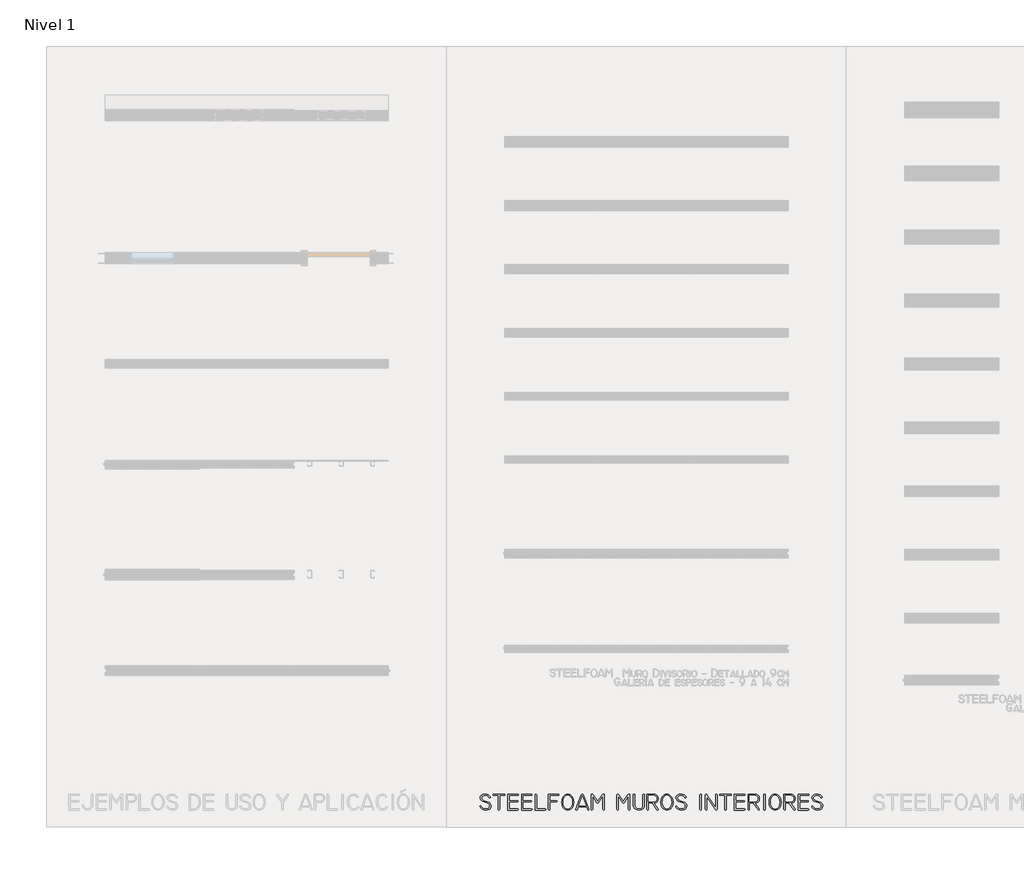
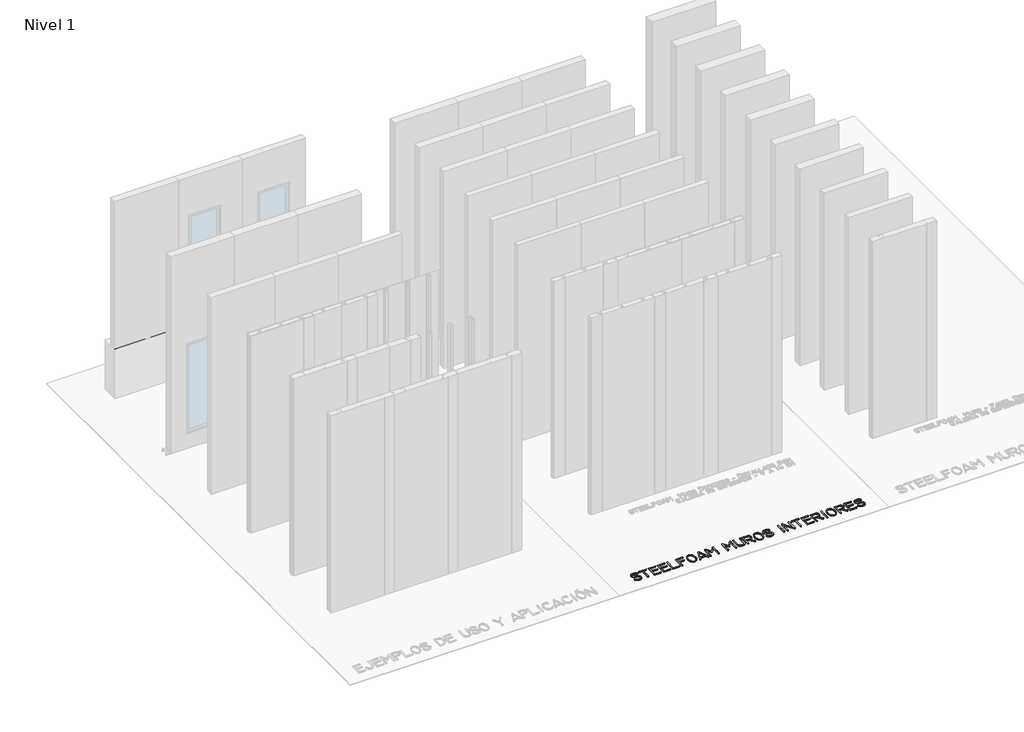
# One storey, part 3 of 6: 2 proxies.
"""IFC4 building model written with IfcOpenShell, lengths in millimetres."""

from ifc_helpers import new_model, si_unit, point, frame, frame_2d, origin, origin_with_axes, place, context, project, spatial, polyline, circle_curve, trimmed, segment, composite_curve, outline, extrude, element, save

model = new_model("IFC4")

# Units and contexts
model_context = context("Model", 3, world=origin())
ifc_project = project(units=[si_unit("LENGTHUNIT", "METRE", prefix="MILLI")], contexts=[model_context])

# Site, building, storey
site = spatial("IfcSite", under=ifc_project)
building = spatial("IfcBuilding", under=site)
storey = spatial("IfcBuildingStorey", under=building, Name="Nivel 1", Elevation=0.0)

# Proxies
placement = place(None, origin())
element("IfcBuildingElementProxy", 1, Name="Steelfoam - Canal Arrastre 12cm", ObjectType="Steelfoam - Canal Arrastre 12cm", at=placement, inside=storey, context=model_context, shape_type="SweptSolid", body=[
    extrude(outline(composite_curve([segment(polyline([(-650.6879397, 1000.2), (-538.6879397, 1000.2)]), True, "CONTINUOUS"), segment(trimmed(circle_curve(frame_2d((-538.6879397, 1004.2)), 4.0), [point((-538.6879397, 1000.2))], [point((-534.6879397, 1004.2))], True, "CARTESIAN"), True, "CONTINUOUS"), segment(polyline([(-534.6879397, 1004.2), (-534.6879397, 1059.3231849), (-534.4879397, 1060.2), (-534.4879397, 1004.2)]), True, "CONTINUOUS"), segment(trimmed(circle_curve(frame_2d((-538.6879397, 1004.2)), 4.2), [point((-534.4879397, 1004.2))], [point((-538.6879397, 1000.0))], False, "CARTESIAN"), True, "CONTINUOUS"), segment(polyline([(-538.6879397, 1000.0), (-650.6879397, 1000.0)]), True, "CONTINUOUS"), segment(trimmed(circle_curve(frame_2d((-650.6879397, 1004.2)), 4.2), [point((-650.6879397, 1000.0))], [point((-654.8879397, 1004.2))], False, "CARTESIAN"), True, "CONTINUOUS"), segment(polyline([(-654.8879397, 1004.2), (-654.8879397, 1060.2), (-654.6879397, 1059.3126662), (-654.6879397, 1004.2)]), True, "CONTINUOUS"), segment(trimmed(circle_curve(frame_2d((-650.6879397, 1004.2)), 4.0), [point((-654.6879397, 1004.2))], [point((-650.6879397, 1000.2))], True, "CARTESIAN"), True, "CONTINUOUS")], self_intersect=False)), frame((-2440.1407437, 0.0, 0.0), z_axis=(1.0, 0.0, 0.0), x_axis=(0.0, 1.0, 0.0)), (0.0, 0.0, 1.0), 3660.0),
])
element("IfcBuildingElementProxy", 2, Name="20cm", ObjectType="20cm", at=placement, inside=storey, context=model_context, shape_type="SweptSolid", body=[
    extrude(outline(polyline([(2547.4066032, -9530.4874668), (2542.8079945, -9554.8707869), (2529.0121687, -9572.2874441), (2506.0191257, -9582.7374384), (2473.8288654, -9586.2207698), (2453.9249873, -9583.3668825), (2434.7911088, -9574.8052205), (2417.906118, -9561.2935611), (2404.7489029, -9543.5896819), (2403.4777925, -9538.7985734), (2405.7877913, -9533.8852427), (2412.7177875, -9532.2474658), (2419.5622282, -9535.034131), (2430.3850001, -9550.3546782), (2443.9822149, -9561.5074499), (2458.838318, -9568.3091129), (2473.4377545, -9570.5763339), (2497.5857969, -9568.0249464), (2514.8343986, -9560.3707839), (2525.1835597, -9547.6138464), (2528.63328, -9529.7541338), (2526.7877255, -9519.1360841), (2521.2510618, -9509.6730337), (2499.1044072, -9494.2119309), (2439.8999949, -9472.2119429), (2425.3341695, -9463.5280587), (2414.9300085, -9453.2186199), (2408.6875119, -9441.2836264), (2406.6066797, -9427.7230782), (2410.5269554, -9407.6175336), (2422.2877823, -9392.9142082), (2441.8891605, -9383.6131022), (2469.33109, -9379.7142154), (2490.817745, -9380.1542152), (2512.0599557, -9389.4919879), (2532.0066115, -9404.1708688), (2536.9932755, -9412.3628088), (2538.6554968, -9421.1230818), (2536.4432758, -9427.1364119), (2529.8066127, -9429.1408552), (2524.1355047, -9427.5641894), (2520.8110621, -9422.834192), (2513.9421769, -9411.1314206), (2502.2332944, -9402.1297588), (2487.2977469, -9396.6114285), (2470.7488671, -9395.3586514), (2450.899989, -9398.2155942), (2436.7222189, -9404.635313), (2428.2155568, -9414.6178076), (2425.3800028, -9428.163078), (2427.2988907, -9438.3808502), (2433.0555542, -9447.5230674), (2456.0822084, -9462.580837), (2515.139954, -9485.0208248), (2529.256613, -9494.2608198), (2539.3399409, -9504.9185918), (2545.3899376, -9516.9941408), (2547.4066032, -9530.4874668)])), origin_with_axes(), (0.0, 0.0, 1.0), 20.0),
    extrude(outline(polyline([(2715.1931786, -9395.3586514), (2656.9176547, -9395.3586514), (2656.9176547, -9576.8341083), (2654.5709893, -9583.8741044), (2647.5309932, -9586.2207698), (2640.490997, -9583.8741044), (2638.1443316, -9576.8341083), (2638.1443316, -9395.3586514), (2581.2865847, -9395.3586514), (2574.6499217, -9393.011986), (2572.4377007, -9385.9719898), (2574.6743661, -9381.278659), (2581.3843625, -9379.7142154), (2715.2420675, -9379.7142154), (2721.9520638, -9381.278659), (2724.1887293, -9385.9719898), (2721.9398416, -9393.011986), (2715.1931786, -9395.3586514)])), origin_with_axes(), (0.0, 0.0, 1.0), 20.0),
    extrude(outline(polyline([(2891.5841938, -9586.2207698), (2763.2998191, -9586.2207698), (2763.2998191, -9379.7142154), (2891.5841938, -9379.7142154), (2898.2941902, -9381.278659), (2900.5308556, -9385.9719898), (2898.3064124, -9393.011986), (2891.6330827, -9395.3586514), (2782.0731422, -9395.3586514), (2782.0731422, -9464.1941695), (2885.2286417, -9464.1941695), (2891.9019714, -9465.7586131), (2894.1264147, -9470.4519439), (2891.9019714, -9477.49194), (2885.2286417, -9479.8386054), (2782.0731422, -9479.8386054), (2782.0731422, -9570.5763339), (2891.6330827, -9570.5763339), (2898.3064124, -9572.1407775), (2900.5308556, -9576.8341083), (2898.2941902, -9583.8741044), (2891.5841938, -9586.2207698)])), origin_with_axes(), (0.0, 0.0, 1.0), 20.0),
    extrude(outline(polyline([(3069.9307635, -9586.2207698), (2941.6463888, -9586.2207698), (2941.6463888, -9379.7142154), (3069.9307635, -9379.7142154), (3076.6407599, -9381.278659), (3078.8774253, -9385.9719898), (3076.6529821, -9393.011986), (3069.9796524, -9395.3586514), (2960.4197119, -9395.3586514), (2960.4197119, -9464.1941695), (3063.5752114, -9464.1941695), (3070.2485411, -9465.7586131), (3072.4729844, -9470.4519439), (3070.2485411, -9477.49194), (3063.5752114, -9479.8386054), (2960.4197119, -9479.8386054), (2960.4197119, -9570.5763339), (3069.9796524, -9570.5763339), (3076.6529821, -9572.1407775), (3078.8774253, -9576.8341083), (3076.6407599, -9583.8741044), (3069.9307635, -9586.2207698)])), origin_with_axes(), (0.0, 0.0, 1.0), 20.0),
    extrude(outline(polyline([(3245.148446, -9586.2207698), (3116.8640713, -9586.2207698), (3116.8640713, -9385.9719898), (3119.2107367, -9381.278659), (3126.2507329, -9379.7142154), (3133.2907291, -9381.278659), (3135.6373945, -9385.9719898), (3135.6373945, -9570.5763339), (3245.1973349, -9570.5763339), (3251.8706646, -9572.1407775), (3254.0951078, -9576.8341083), (3251.8584424, -9583.8741044), (3245.148446, -9586.2207698)])), origin_with_axes(), (0.0, 0.0, 1.0), 20.0),
    extrude(outline(polyline([(3417.2861302, -9395.3586514), (3307.7261898, -9395.3586514), (3307.7261898, -9464.1941695), (3392.5483659, -9464.1941695), (3399.2216956, -9465.7586131), (3401.4461388, -9470.4519439), (3399.2216956, -9477.49194), (3392.5483659, -9479.8386054), (3307.7261898, -9479.8386054), (3307.7261898, -9576.8341083), (3305.3795244, -9583.8741044), (3298.3395282, -9586.2207698), (3291.2995321, -9583.8741044), (3288.9528667, -9576.8341083), (3288.9528667, -9379.7142154), (3417.2372414, -9379.7142154), (3423.9472377, -9381.278659), (3426.1839032, -9385.9719898), (3423.9594599, -9393.011986), (3417.2861302, -9395.3586514)])), origin_with_axes(), (0.0, 0.0, 1.0), 20.0),
    extrude(outline(polyline([(3617.4860214, -9482.4297151), (3612.5360241, -9520.9296942), (3597.6860322, -9553.3185655), (3585.8213164, -9567.7132799), (3572.2271571, -9577.9952187), (3556.9035543, -9584.164382), (3539.850508, -9586.2207698), (3522.7607951, -9584.1674376), (3507.3271924, -9578.0074409), (3493.5496999, -9567.7407799), (3481.4283176, -9553.3674543), (3466.1383259, -9520.7952498), (3461.041662, -9482.4297151), (3465.8327705, -9444.8952911), (3480.206096, -9412.0786423), (3491.5055343, -9397.9192055), (3504.6260828, -9387.8053221), (3519.5677413, -9381.7369921), (3536.33051, -9379.7142154), (3554.2971669, -9381.7369921), (3570.3082693, -9387.8053221), (3584.3638172, -9397.9192055), (3596.4638106, -9412.0786423), (3612.2304687, -9444.9686244), (3617.4860214, -9482.4297151)]), holes=[polyline([(3598.7126983, -9482.4297151), (3594.728256, -9449.8575106), (3582.7749292, -9422.5408588), (3573.2935454, -9410.648643), (3562.4004958, -9402.1542032), (3550.0957803, -9397.0575393), (3536.3793988, -9395.3586514), (3523.7080168, -9397.0514282), (3512.4360785, -9402.1297588), (3502.5635839, -9410.5936431), (3494.0905329, -9422.4430811), (3483.3838721, -9449.6375107), (3479.8149851, -9482.4297151), (3483.7138719, -9515.930808), (3495.4105322, -9543.1007933), (3504.7880271, -9555.1213423), (3515.3205214, -9563.7074487), (3527.008015, -9568.8591126), (3539.850508, -9570.5763339), (3552.720501, -9568.8591126), (3564.3438281, -9563.7074487), (3574.7204891, -9555.1213423), (3583.8504841, -9543.1007933), (3594.9971447, -9516.0041413), (3598.7126983, -9482.4297151)])]), origin_with_axes(), (0.0, 0.0, 1.0), 20.0),
    extrude(outline(polyline([(3813.1881372, -9575.0252203), (3814.0681367, -9577.4207746), (3811.6725825, -9584.020771), (3804.4859197, -9586.2207698), (3799.0348116, -9583.7274378), (3795.4903691, -9576.2474419), (3781.8503765, -9545.5452364), (3674.1971017, -9545.5452364), (3660.8504423, -9580.5496618), (3657.5015552, -9584.8029928), (3652.1482248, -9586.2207698), (3644.9248954, -9584.020771), (3642.5171189, -9577.4207746), (3643.1037852, -9575.856331), (3714.8237463, -9386.7542116), (3718.832633, -9381.4742145), (3726.8504064, -9379.7142154), (3734.6237355, -9381.5353255), (3738.9748442, -9386.9986559), (3813.1881372, -9575.0252203)]), holes=[polyline([(3775.983713, -9529.9008004), (3726.9481841, -9401.2253148), (3679.9659874, -9529.9008004), (3775.983713, -9529.9008004)])]), origin_with_axes(), (0.0, 0.0, 1.0), 20.0),
    extrude(outline(polyline([(4011.7258071, -9576.8341083), (4009.3791417, -9583.8741044), (4002.3391455, -9586.2207698), (3995.2991493, -9583.8741044), (3992.9524839, -9576.8341083), (3992.9524839, -9403.2786471), (3936.3391814, -9490.1052665), (3926.2191869, -9496.6563741), (3916.6369699, -9490.6919329), (3861.539222, -9403.5719802), (3861.539222, -9576.8341083), (3859.1925567, -9583.8741044), (3852.1525605, -9586.2207698), (3845.1125643, -9583.8741044), (3842.7658989, -9576.8341083), (3842.7658989, -9386.5097673), (3845.2836753, -9381.4131034), (3852.8370046, -9379.7142154), (3861.8692219, -9382.244214), (3868.5303294, -9389.8342099), (3926.3169646, -9474.0208308), (3985.2769326, -9390.2742097), (3992.3658176, -9382.354214), (4001.2147017, -9379.7142154), (4009.0980307, -9381.6331033), (4011.7258071, -9387.3897668), (4011.7258071, -9576.8341083)])), origin_with_axes(), (0.0, 0.0, 1.0), 20.0),
    extrude(outline(polyline([(4343.387849, -9576.8341083), (4341.0411836, -9583.8741044), (4334.0011874, -9586.2207698), (4326.9611912, -9583.8741044), (4324.6145258, -9576.8341083), (4324.6145258, -9403.2786471), (4268.0012233, -9490.1052665), (4257.8812288, -9496.6563741), (4248.2990118, -9490.6919329), (4193.201264, -9403.5719802), (4193.201264, -9576.8341083), (4190.8545986, -9583.8741044), (4183.8146024, -9586.2207698), (4176.7746062, -9583.8741044), (4174.4279408, -9576.8341083), (4174.4279408, -9386.5097673), (4176.9457172, -9381.4131034), (4184.4990465, -9379.7142154), (4193.5312638, -9382.244214), (4200.1923713, -9389.8342099), (4257.9790065, -9474.0208308), (4316.9389745, -9390.2742097), (4324.0278595, -9382.354214), (4332.8767436, -9379.7142154), (4340.7600726, -9381.6331033), (4343.387849, -9387.3897668), (4343.387849, -9576.8341083)])), origin_with_axes(), (0.0, 0.0, 1.0), 20.0),
    extrude(outline(polyline([(4531.1210802, -9516.5052522), (4526.8433048, -9545.1724588), (4514.0099784, -9566.3474473), (4492.6211012, -9580.0302176), (4462.676673, -9586.2207698), (4435.8122432, -9583.4952157), (4412.1255894, -9571.2118891), (4401.217262, -9560.7527281), (4393.4255995, -9548.4907903), (4388.7506021, -9534.4260758), (4387.1922696, -9518.5585844), (4387.1922696, -9385.9719898), (4389.538935, -9381.278659), (4396.5789312, -9379.7142154), (4403.6189273, -9381.278659), (4405.9655927, -9385.9719898), (4405.9655927, -9518.0208069), (4410.5000347, -9541.7074607), (4424.1033606, -9558.8918958), (4441.923351, -9566.8241137), (4461.3566737, -9570.5763339), (4483.6652727, -9565.9166142), (4499.5999863, -9555.2618978), (4509.1608144, -9538.6121846), (4512.3477571, -9515.9674747), (4512.3477571, -9385.9719898), (4514.6944225, -9381.278659), (4521.7344187, -9379.7142154), (4528.7744148, -9381.278659), (4531.1210802, -9385.9719898), (4531.1210802, -9516.5052522)])), origin_with_axes(), (0.0, 0.0, 1.0), 20.0),
    extrude(outline(polyline([(4709.4676499, -9435.6430739), (4704.5543193, -9462.4708371), (4689.8143273, -9481.8430488), (4676.3943346, -9489.7263778), (4663.1210085, -9492.3541542), (4648.9921273, -9492.3541542), (4709.076539, -9573.4607768), (4709.4676499, -9576.4429974), (4707.1698734, -9583.7763267), (4700.2765438, -9586.2207698), (4693.3343254, -9582.602994), (4628.8010271, -9492.3541542), (4581.1832752, -9492.3541542), (4581.1832752, -9576.8341083), (4578.8366099, -9583.8741044), (4571.7966137, -9586.2207698), (4564.7566175, -9583.8741044), (4562.4099521, -9576.8341083), (4562.4099521, -9379.7142154), (4651.0454595, -9379.7142154), (4673.5954472, -9383.3808801), (4691.5743263, -9394.3808741), (4704.994319, -9413.1053084), (4709.4676499, -9435.6430739)]), holes=[polyline([(4690.6943268, -9435.6430739), (4687.6387729, -9418.8741941), (4678.4721112, -9405.8208679), (4665.9443403, -9397.9742055), (4650.7521263, -9395.3586514), (4581.1832752, -9395.3586514), (4581.1832752, -9476.7097182), (4662.2898978, -9476.7097182), (4678.3254447, -9469.0341669), (4687.6021063, -9455.3819521), (4690.6943268, -9435.6430739)])]), origin_with_axes(), (0.0, 0.0, 1.0), 20.0),
    extrude(outline(polyline([(4900.3297684, -9482.4297151), (4895.3797711, -9520.9296942), (4880.5297792, -9553.3185655), (4868.6650634, -9567.7132799), (4855.0709041, -9577.9952187), (4839.7473013, -9584.164382), (4822.6942551, -9586.2207698), (4805.6045421, -9584.1674376), (4790.1709394, -9578.0074409), (4776.3934469, -9567.7407799), (4764.2720646, -9553.3674543), (4748.9820729, -9520.7952498), (4743.885409, -9482.4297151), (4748.6765175, -9444.8952911), (4763.049843, -9412.0786423), (4774.3492813, -9397.9192055), (4787.4698298, -9387.8053221), (4802.4114883, -9381.7369921), (4819.174257, -9379.7142154), (4837.1409139, -9381.7369921), (4853.1520163, -9387.8053221), (4867.2075642, -9397.9192055), (4879.3075576, -9412.0786423), (4895.0742157, -9444.9686244), (4900.3297684, -9482.4297151)]), holes=[polyline([(4881.5564453, -9482.4297151), (4877.572003, -9449.8575106), (4865.6186762, -9422.5408588), (4856.1372924, -9410.648643), (4845.2442428, -9402.1542032), (4832.9395273, -9397.0575393), (4819.2231458, -9395.3586514), (4806.5517638, -9397.0514282), (4795.2798255, -9402.1297588), (4785.4073309, -9410.5936431), (4776.9342799, -9422.4430811), (4766.2276191, -9449.6375107), (4762.6587321, -9482.4297151), (4766.5576189, -9515.930808), (4778.2542792, -9543.1007933), (4787.6317741, -9555.1213423), (4798.1642684, -9563.7074487), (4809.851762, -9568.8591126), (4822.6942551, -9570.5763339), (4835.5642481, -9568.8591126), (4847.1875751, -9563.7074487), (4857.5642361, -9555.1213423), (4866.6942311, -9543.1007933), (4877.8408917, -9516.0041413), (4881.5564453, -9482.4297151)])]), origin_with_axes(), (0.0, 0.0, 1.0), 20.0),
    extrude(outline(polyline([(5078.6763381, -9530.4874668), (5074.0777295, -9554.8707869), (5060.2819037, -9572.2874441), (5037.2888606, -9582.7374384), (5005.0986003, -9586.2207698), (4985.1947223, -9583.3668825), (4966.0608438, -9574.8052205), (4949.175853, -9561.2935611), (4936.0186379, -9543.5896819), (4934.7475275, -9538.7985734), (4937.0575262, -9533.8852427), (4943.9875224, -9532.2474658), (4950.8319632, -9535.034131), (4961.6547351, -9550.3546782), (4975.2519499, -9561.5074499), (4990.1080529, -9568.3091129), (5004.7074894, -9570.5763339), (5028.8555319, -9568.0249464), (5046.1041336, -9560.3707839), (5056.4532946, -9547.6138464), (5059.903015, -9529.7541338), (5058.0574604, -9519.1360841), (5052.5207968, -9509.6730337), (5030.3741421, -9494.2119309), (4971.1697299, -9472.2119429), (4956.6039045, -9463.5280587), (4946.1997435, -9453.2186199), (4939.9572469, -9441.2836264), (4937.8764147, -9427.7230782), (4941.7966903, -9407.6175336), (4953.5575172, -9392.9142082), (4973.1588955, -9383.6131022), (5000.600825, -9379.7142154), (5022.08748, -9380.1542152), (5043.3296907, -9389.4919879), (5063.2763465, -9404.1708688), (5068.2630104, -9412.3628088), (5069.9252318, -9421.1230818), (5067.7130107, -9427.1364119), (5061.0763477, -9429.1408552), (5055.4052397, -9427.5641894), (5052.080797, -9422.834192), (5045.2119119, -9411.1314206), (5033.5030293, -9402.1297588), (5018.5674819, -9396.6114285), (5002.018602, -9395.3586514), (4982.1697239, -9398.2155942), (4967.9919538, -9404.635313), (4959.4852918, -9414.6178076), (4956.6497378, -9428.163078), (4958.5686256, -9438.3808502), (4964.3252892, -9447.5230674), (4987.3519433, -9462.580837), (5046.409689, -9485.0208248), (5060.526348, -9494.2608198), (5070.6096758, -9504.9185918), (5076.6596725, -9516.9941408), (5078.6763381, -9530.4874668)])), origin_with_axes(), (0.0, 0.0, 1.0), 20.0),
    extrude(outline(polyline([(5266.4095694, -9576.8341083), (5264.062904, -9583.8741044), (5257.0229078, -9586.2207698), (5249.9829116, -9583.8741044), (5247.6362463, -9576.8341083), (5247.6362463, -9385.9719898), (5249.9829116, -9381.278659), (5257.0229078, -9379.7142154), (5264.062904, -9381.278659), (5266.4095694, -9385.9719898), (5266.4095694, -9576.8341083)])), origin_with_axes(), (0.0, 0.0, 1.0), 20.0),
    extrude(outline(polyline([(5469.7872366, -9577.7629966), (5467.880571, -9584.1063265), (5462.1605741, -9586.2207698), (5451.3561355, -9580.9407727), (5338.3739747, -9411.5408648), (5338.3739747, -9577.3718857), (5336.0273093, -9584.0085488), (5328.9873131, -9586.2207698), (5321.947317, -9583.9596599), (5319.6006516, -9577.1763303), (5319.6006516, -9385.0431014), (5321.5439838, -9381.0464369), (5327.3739807, -9379.7142154), (5334.0595326, -9381.4008812), (5338.960641, -9386.4608784), (5451.0139135, -9554.4430093), (5451.0139135, -9385.6297678), (5453.3605789, -9381.1931035), (5460.400575, -9379.7142154), (5467.4405712, -9381.1931035), (5469.7872366, -9385.6297678), (5469.7872366, -9577.7629966)])), origin_with_axes(), (0.0, 0.0, 1.0), 20.0),
    extrude(outline(polyline([(5646.9604736, -9395.3586514), (5588.6849497, -9395.3586514), (5588.6849497, -9576.8341083), (5586.3382843, -9583.8741044), (5579.2982882, -9586.2207698), (5572.258292, -9583.8741044), (5569.9116266, -9576.8341083), (5569.9116266, -9395.3586514), (5513.0538797, -9395.3586514), (5506.4172167, -9393.011986), (5504.2049957, -9385.9719898), (5506.4416611, -9381.278659), (5513.1516575, -9379.7142154), (5647.0093625, -9379.7142154), (5653.7193588, -9381.278659), (5655.9560243, -9385.9719898), (5653.7071366, -9393.011986), (5646.9604736, -9395.3586514)])), origin_with_axes(), (0.0, 0.0, 1.0), 20.0),
    extrude(outline(polyline([(5823.3514888, -9586.2207698), (5695.0671141, -9586.2207698), (5695.0671141, -9379.7142154), (5823.3514888, -9379.7142154), (5830.0614852, -9381.278659), (5832.2981506, -9385.9719898), (5830.0737074, -9393.011986), (5823.4003777, -9395.3586514), (5713.8404372, -9395.3586514), (5713.8404372, -9464.1941695), (5816.9959367, -9464.1941695), (5823.6692664, -9465.7586131), (5825.8937097, -9470.4519439), (5823.6692664, -9477.49194), (5816.9959367, -9479.8386054), (5713.8404372, -9479.8386054), (5713.8404372, -9570.5763339), (5823.4003777, -9570.5763339), (5830.0737074, -9572.1407775), (5832.2981506, -9576.8341083), (5830.0614852, -9583.8741044), (5823.3514888, -9586.2207698)])), origin_with_axes(), (0.0, 0.0, 1.0), 20.0),
    extrude(outline(polyline([(6017.3424945, -9435.6430739), (6012.4291638, -9462.4708371), (5997.6891718, -9481.8430488), (5984.2691791, -9489.7263778), (5970.995853, -9492.3541542), (5956.8669718, -9492.3541542), (6016.9513836, -9573.4607768), (6017.3424945, -9576.4429974), (6015.0447179, -9583.7763267), (6008.1513883, -9586.2207698), (6001.2091699, -9582.602994), (5936.6758716, -9492.3541542), (5889.0581198, -9492.3541542), (5889.0581198, -9576.8341083), (5886.7114544, -9583.8741044), (5879.6714582, -9586.2207698), (5872.631462, -9583.8741044), (5870.2847966, -9576.8341083), (5870.2847966, -9379.7142154), (5958.920304, -9379.7142154), (5981.4702917, -9383.3808801), (5999.4491709, -9394.3808741), (6012.8691636, -9413.1053084), (6017.3424945, -9435.6430739)]), holes=[polyline([(5998.5691713, -9435.6430739), (5995.5136174, -9418.8741941), (5986.3469558, -9405.8208679), (5973.8191848, -9397.9742055), (5958.6269708, -9395.3586514), (5889.0581198, -9395.3586514), (5889.0581198, -9476.7097182), (5970.1647423, -9476.7097182), (5986.2002892, -9469.0341669), (5995.4769508, -9455.3819521), (5998.5691713, -9435.6430739)])]), origin_with_axes(), (0.0, 0.0, 1.0), 20.0),
    extrude(outline(polyline([(6092.435787, -9576.8341083), (6090.0891216, -9583.8741044), (6083.0491254, -9586.2207698), (6076.0091292, -9583.8741044), (6073.6624638, -9576.8341083), (6073.6624638, -9385.9719898), (6076.0091292, -9381.278659), (6083.0491254, -9379.7142154), (6090.0891216, -9381.278659), (6092.435787, -9385.9719898), (6092.435787, -9576.8341083)])), origin_with_axes(), (0.0, 0.0, 1.0), 20.0),
    extrude(outline(polyline([(6298.9423414, -9482.4297151), (6293.9923441, -9520.9296942), (6279.1423521, -9553.3185655), (6267.2776364, -9567.7132799), (6253.6834771, -9577.9952187), (6238.3598743, -9584.164382), (6221.306828, -9586.2207698), (6204.2171151, -9584.1674376), (6188.7835124, -9578.0074409), (6175.0060199, -9567.7407799), (6162.8846376, -9553.3674543), (6147.5946459, -9520.7952498), (6142.497982, -9482.4297151), (6147.2890905, -9444.8952911), (6161.662416, -9412.0786423), (6172.9618543, -9397.9192055), (6186.0824027, -9387.8053221), (6201.0240613, -9381.7369921), (6217.7868299, -9379.7142154), (6235.7534868, -9381.7369921), (6251.7645892, -9387.8053221), (6265.8201371, -9397.9192055), (6277.9201306, -9412.0786423), (6293.6867887, -9444.9686244), (6298.9423414, -9482.4297151)]), holes=[polyline([(6280.1690182, -9482.4297151), (6276.184576, -9449.8575106), (6264.2312491, -9422.5408588), (6254.7498654, -9410.648643), (6243.8568158, -9402.1542032), (6231.5521002, -9397.0575393), (6217.8357188, -9395.3586514), (6205.1643368, -9397.0514282), (6193.8923985, -9402.1297588), (6184.0199038, -9410.5936431), (6175.5468529, -9422.4430811), (6164.840192, -9449.6375107), (6161.2713051, -9482.4297151), (6165.1701919, -9515.930808), (6176.8668522, -9543.1007933), (6186.2443471, -9555.1213423), (6196.7768414, -9563.7074487), (6208.464335, -9568.8591126), (6221.306828, -9570.5763339), (6234.176821, -9568.8591126), (6245.800148, -9563.7074487), (6256.1768091, -9555.1213423), (6265.3068041, -9543.1007933), (6276.4534647, -9516.0041413), (6280.1690182, -9482.4297151)])]), origin_with_axes(), (0.0, 0.0, 1.0), 20.0),
    extrude(outline(polyline([(6480.4177983, -9435.6430739), (6475.5044676, -9462.4708371), (6460.7644756, -9481.8430488), (6447.3444829, -9489.7263778), (6434.0711568, -9492.3541542), (6419.9422756, -9492.3541542), (6480.0266874, -9573.4607768), (6480.4177983, -9576.4429974), (6478.1200217, -9583.7763267), (6471.2266921, -9586.2207698), (6464.2844737, -9582.602994), (6399.7511754, -9492.3541542), (6352.1334236, -9492.3541542), (6352.1334236, -9576.8341083), (6349.7867582, -9583.8741044), (6342.746762, -9586.2207698), (6335.7067658, -9583.8741044), (6333.3601004, -9576.8341083), (6333.3601004, -9379.7142154), (6421.9956078, -9379.7142154), (6444.5455955, -9383.3808801), (6462.5244747, -9394.3808741), (6475.9444674, -9413.1053084), (6480.4177983, -9435.6430739)]), holes=[polyline([(6461.6444751, -9435.6430739), (6458.5889212, -9418.8741941), (6449.4222596, -9405.8208679), (6436.8944886, -9397.9742055), (6421.7022746, -9395.3586514), (6352.1334236, -9395.3586514), (6352.1334236, -9476.7097182), (6433.2400461, -9476.7097182), (6449.275593, -9469.0341669), (6458.5522546, -9455.3819521), (6461.6444751, -9435.6430739)])]), origin_with_axes(), (0.0, 0.0, 1.0), 20.0),
    extrude(outline(polyline([(6646.2488192, -9586.2207698), (6517.9644445, -9586.2207698), (6517.9644445, -9379.7142154), (6646.2488192, -9379.7142154), (6652.9588156, -9381.278659), (6655.195481, -9385.9719898), (6652.9710378, -9393.011986), (6646.2977081, -9395.3586514), (6536.7377676, -9395.3586514), (6536.7377676, -9464.1941695), (6639.8932671, -9464.1941695), (6646.5665968, -9465.7586131), (6648.7910401, -9470.4519439), (6646.5665968, -9477.49194), (6639.8932671, -9479.8386054), (6536.7377676, -9479.8386054), (6536.7377676, -9570.5763339), (6646.2977081, -9570.5763339), (6652.9710378, -9572.1407775), (6655.195481, -9576.8341083), (6652.9588156, -9583.8741044), (6646.2488192, -9586.2207698)])), origin_with_axes(), (0.0, 0.0, 1.0), 20.0),
    extrude(outline(polyline([(6837.1109377, -9530.4874668), (6832.5123291, -9554.8707869), (6818.7165032, -9572.2874441), (6795.7234602, -9582.7374384), (6763.5331999, -9586.2207698), (6743.6293218, -9583.3668825), (6724.4954433, -9574.8052205), (6707.6104525, -9561.2935611), (6694.4532374, -9543.5896819), (6693.182127, -9538.7985734), (6695.4921258, -9533.8852427), (6702.422122, -9532.2474658), (6709.2665627, -9535.034131), (6720.0893346, -9550.3546782), (6733.6865495, -9561.5074499), (6748.5426525, -9568.3091129), (6763.142089, -9570.5763339), (6787.2901314, -9568.0249464), (6804.5387332, -9560.3707839), (6814.8878942, -9547.6138464), (6818.3376145, -9529.7541338), (6816.49206, -9519.1360841), (6810.9553963, -9509.6730337), (6788.8087417, -9494.2119309), (6729.6043295, -9472.2119429), (6715.038504, -9463.5280587), (6704.634343, -9453.2186199), (6698.3918464, -9441.2836264), (6696.3110142, -9427.7230782), (6700.2312899, -9407.6175336), (6711.9921168, -9392.9142082), (6731.593495, -9383.6131022), (6759.0354246, -9379.7142154), (6780.5220795, -9380.1542152), (6801.7642902, -9389.4919879), (6821.710946, -9404.1708688), (6826.69761, -9412.3628088), (6828.3598313, -9421.1230818), (6826.1476103, -9427.1364119), (6819.5109472, -9429.1408552), (6813.8398392, -9427.5641894), (6810.5153966, -9422.834192), (6803.6465114, -9411.1314206), (6791.9376289, -9402.1297588), (6777.0020815, -9396.6114285), (6760.4532016, -9395.3586514), (6740.6043235, -9398.2155942), (6726.4265534, -9404.635313), (6717.9198914, -9414.6178076), (6715.0843373, -9428.163078), (6717.0032252, -9438.3808502), (6722.7598887, -9447.5230674), (6745.7865429, -9462.580837), (6804.8442885, -9485.0208248), (6818.9609475, -9494.2608198), (6829.0442754, -9504.9185918), (6835.0942721, -9516.9941408), (6837.1109377, -9530.4874668)])), origin_with_axes(), (0.0, 0.0, 1.0), 20.0),
])

save(model, "model.ifc")
